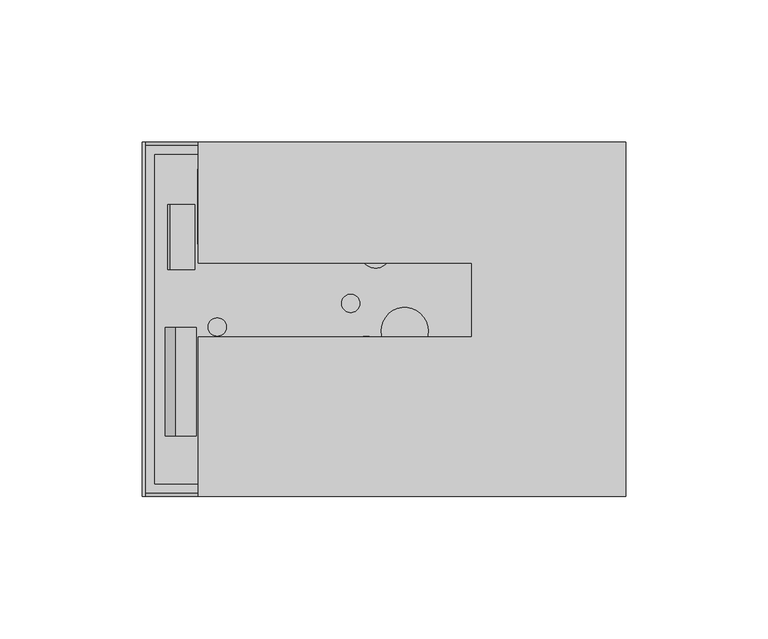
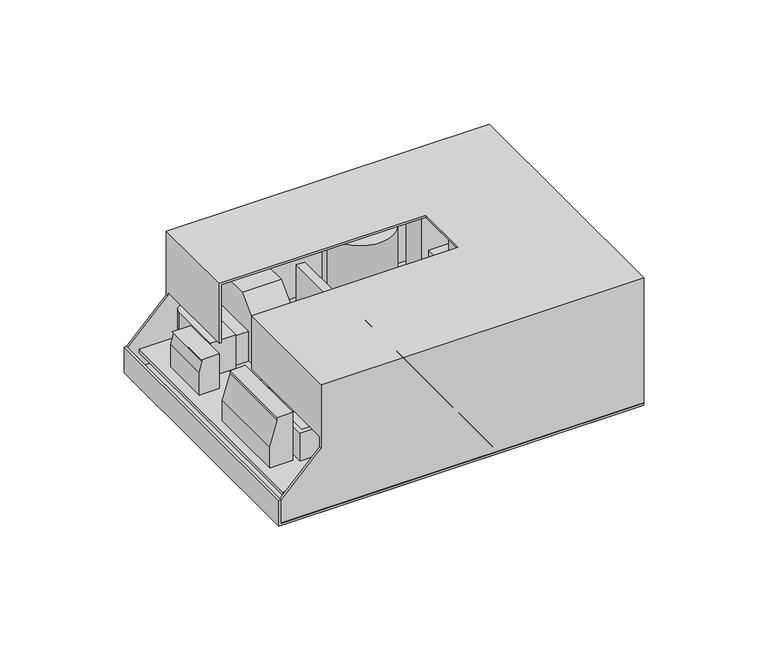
"""IFC4 building model written with IfcOpenShell, lengths in millimetres: proxy geometry, FITIN 48V 3A CG2 : FITIN 48V 3A CG2."""

from ifc_helpers import new_model, si_unit, point, frame, frame_2d, origin, origin_with_axes, place, context, project, spatial, polyline, circle_curve, trimmed, segment, composite_curve, outline, extrude, faceted_brep, source, transform, mapped, element, save


def electrical_equipment_0b040b00(model_context):
    return source(origin(), model_context, "Body", "SolidModel", [
        extrude(outline(composite_curve([segment(polyline([(-8.5, 24.6027871), (-0.0019531, 24.6027871), (-0.0019531, -25.3972129), (-5.6765266, -25.3972129), (-7.4, -22.3509628), (-6.0792807, -21.6037409), (-7.9333399, -13.04255)]), True, "CONTINUOUS"), segment(trimmed(circle_curve(frame_2d((-7.4927941, -13.4587338)), 0.6060441), [point((-7.9333399, -13.04255))], [point((-6.9004808, -13.3304591))], False, "CARTESIAN"), True, "CONTINUOUS"), segment(polyline([(-6.9004808, -13.3304591), (-4.8862606, -22.6311996)]), True, "CONTINUOUS"), segment(trimmed(circle_curve(frame_2d((-4.1931303, -22.4810915)), 0.7091982), [point((-4.8862606, -22.6311996))], [point((-3.5, -22.6311996))], True, "CARTESIAN"), True, "CONTINUOUS"), segment(polyline([(-3.5, -22.6311996), (-3.5, 18.5341056), (-8.5, 22.1027871), (-8.5, 24.6027871)]), True, "CONTINUOUS")], self_intersect=False)), frame((0.0, -46.9665574, 0.0), z_axis=(0.0, 1.0, 0.0), x_axis=(0.0, 0.0, 1.0)), (0.0, 0.0, 1.0), 99.9220388),
        extrude(outline(polyline([(1.0, 83.339387), (1.0, -85.4038129), (12.5999999, -85.4038129), (12.5999999, -86.4038129), (0.0, -86.4038129), (0.0, 83.339387), (1.0, 83.339387)])), frame((0.0, -59.2811186, 0.0), z_axis=(0.0, 1.0, 0.0), x_axis=(0.0, 0.0, 1.0)), (0.0, 0.0, 1.0), 124.46),
        extrude(outline(polyline([(-82.0072129, 60.8500814), (78.0127871, 60.8500814), (78.0127871, -54.9485186), (-82.0072129, -54.9485186), (-82.0072129, 60.8500814)])), frame((0.0, 0.0, 11.0), z_axis=(0.0, 0.0, 1.0), x_axis=(1.0, 0.0, 0.0)), (0.0, 0.0, 1.0), 1.6),
        extrude(outline(polyline([(37.0171871, -26.0687186), (37.0171871, -37.3209186), (57.9975871, -37.3209186), (57.9975871, -26.0687186), (68.4623871, -26.0687186), (68.4623871, -51.6719186), (55.5083871, -51.6719186), (55.5083871, -40.3181186), (39.5063871, -40.3181186), (39.5063871, -51.6719186), (26.5523871, -51.6719186), (26.5523871, -26.0687186), (37.0171871, -26.0687186)])), origin_with_axes(), (0.0, 0.0, 1.0), 51.1),
        extrude(outline(polyline([(25.9681871, -19.8965186), (25.9681871, -49.8939186), (1.9651871, -49.8939186), (1.9651871, -19.8965186), (25.9681871, -19.8965186)]), holes=[polyline([(24.9681871, -20.8965186), (2.9651871, -20.8965186), (2.9651871, -48.8939186), (24.9681871, -48.8939186), (24.9681871, -20.8965186)])]), origin_with_axes(), (0.0, 0.0, 1.0), 23.6),
        extrude(outline(composite_curve([segment(polyline([(-31.2550865, -45.7422743), (-31.2550865, -33.9312743), (-5.804461, -33.9312743)]), True, "CONTINUOUS"), segment(trimmed(circle_curve(frame_2d((-5.804461, -37.5128489)), 3.5815746), [point((-5.804461, -33.9312743))], [point((-2.2228865, -37.5128489))], False, "CARTESIAN"), True, "CONTINUOUS"), segment(polyline([(-2.2228865, -37.5128489), (-2.2228865, -42.3812111)]), True, "CONTINUOUS"), segment(trimmed(circle_curve(frame_2d((-5.5839497, -42.3812111)), 3.3610632), [point((-2.2228865, -42.3812111))], [point((-5.5839497, -45.7422743))], False, "CARTESIAN"), True, "CONTINUOUS"), segment(polyline([(-5.5839497, -45.7422743), (-31.2550865, -45.7422743)]), True, "CONTINUOUS")], self_intersect=False)), frame((0.0, 0.0, 12.6), z_axis=(0.0, 0.0, 1.0), x_axis=(1.0, 0.0, 0.0)), (0.0, 0.0, 1.0), 16.9),
        extrude(outline(composite_curve([segment(polyline([(-31.2550865, -33.719493), (-31.2550865, -21.908493), (-5.804461, -21.908493)]), True, "CONTINUOUS"), segment(trimmed(circle_curve(frame_2d((-5.804461, -25.4900676)), 3.5815746), [point((-5.804461, -21.908493))], [point((-2.2228865, -25.4900676))], False, "CARTESIAN"), True, "CONTINUOUS"), segment(polyline([(-2.2228865, -25.4900676), (-2.2228865, -30.3584298)]), True, "CONTINUOUS"), segment(trimmed(circle_curve(frame_2d((-5.5839497, -30.3584298)), 3.3610632), [point((-2.2228865, -30.3584298))], [point((-5.5839497, -33.719493))], False, "CARTESIAN"), True, "CONTINUOUS"), segment(polyline([(-5.5839497, -33.719493), (-31.2550865, -33.719493)]), True, "CONTINUOUS")], self_intersect=False)), frame((0.0, 0.0, 12.6), z_axis=(0.0, 0.0, 1.0), x_axis=(1.0, 0.0, 0.0)), (0.0, 0.0, 1.0), 16.9),
        extrude(outline(polyline([(-41.3164129, -6.3329186), (-41.3164129, -39.8355186), (-65.3194129, -39.8355186), (-65.3194129, -6.3329186), (-41.3164129, -6.3329186)]), holes=[polyline([(-43.3164129, -8.3329186), (-63.3194129, -8.3329186), (-63.3194129, -37.8355186), (-43.3164129, -37.8355186), (-43.3164129, -8.3329186)])]), frame((0.0, 0.0, 12.6), z_axis=(0.0, 0.0, 1.0), x_axis=(1.0, 0.0, 0.0)), (0.0, 0.0, 1.0), 14.0),
        extrude(outline(composite_curve([segment(trimmed(circle_curve(frame_2d((-60.0898528, 0.2534011)), 3.2), [point((-63.2898528, 0.2534011))], [point((-56.8898528, 0.2534011))], False, "CARTESIAN"), True, "CONTINUOUS"), segment(trimmed(circle_curve(frame_2d((-60.0898528, 0.2534011)), 3.2), [point((-56.8898528, 0.2534011))], [point((-63.2898528, 0.2534011))], False, "CARTESIAN"), True, "CONTINUOUS")], self_intersect=False)), frame((0.0, 0.0, 12.6), z_axis=(0.0, 0.0, 1.0), x_axis=(1.0, 0.0, 0.0)), (0.0, 0.0, 1.0), 11.7),
        extrude(outline(composite_curve([segment(trimmed(circle_curve(frame_2d((-7.7599187, -6.2013768)), 3.2), [point((-10.9599187, -6.2013768))], [point((-4.5599187, -6.2013768))], False, "CARTESIAN"), True, "CONTINUOUS"), segment(trimmed(circle_curve(frame_2d((-7.7599187, -6.2013768)), 3.2), [point((-4.5599187, -6.2013768))], [point((-10.9599187, -6.2013768))], False, "CARTESIAN"), True, "CONTINUOUS")], self_intersect=False)), frame((0.0, 0.0, 12.6), z_axis=(0.0, 0.0, 1.0), x_axis=(1.0, 0.0, 0.0)), (0.0, 0.0, 1.0), 11.7),
        extrude(outline(composite_curve([segment(trimmed(circle_curve(frame_2d((-13.2523341, 8.537348)), 3.2), [point((-16.4523341, 8.537348))], [point((-10.0523341, 8.537348))], False, "CARTESIAN"), True, "CONTINUOUS"), segment(trimmed(circle_curve(frame_2d((-13.2523341, 8.537348)), 3.2), [point((-10.0523341, 8.537348))], [point((-16.4523341, 8.537348))], False, "CARTESIAN"), True, "CONTINUOUS")], self_intersect=False)), frame((0.0, 0.0, 12.6), z_axis=(0.0, 0.0, 1.0), x_axis=(1.0, 0.0, 0.0)), (0.0, 0.0, 1.0), 11.7),
        extrude(outline(composite_curve([segment(trimmed(circle_curve(frame_2d((-33.7656625, -18.3047851)), 3.2), [point((-36.9656625, -18.3047851))], [point((-30.5656625, -18.3047851))], False, "CARTESIAN"), True, "CONTINUOUS"), segment(trimmed(circle_curve(frame_2d((-33.7656625, -18.3047851)), 3.2), [point((-30.5656625, -18.3047851))], [point((-36.9656625, -18.3047851))], False, "CARTESIAN"), True, "CONTINUOUS")], self_intersect=False)), frame((0.0, 0.0, 12.6), z_axis=(0.0, 0.0, 1.0), x_axis=(1.0, 0.0, 0.0)), (0.0, 0.0, 1.0), 11.7),
        extrude(outline(composite_curve([segment(trimmed(circle_curve(frame_2d((5.7144801, -1.2354138)), 8.3), [point((-2.5855199, -1.2354138))], [point((14.0144801, -1.2354138))], False, "CARTESIAN"), True, "CONTINUOUS"), segment(trimmed(circle_curve(frame_2d((5.7144801, -1.2354138)), 8.3), [point((14.0144801, -1.2354138))], [point((-2.5855199, -1.2354138))], False, "CARTESIAN"), True, "CONTINUOUS")], self_intersect=False)), frame((0.0, 0.0, 12.6), z_axis=(0.0, 0.0, 1.0), x_axis=(1.0, 0.0, 0.0)), (0.0, 0.0, 1.0), 32.6),
        extrude(outline(polyline([(41.2137871, 24.6494814), (71.3777871, 24.6494814), (71.3777871, -12.2455186), (41.2137871, -12.2455186), (41.2137871, 24.6494814)])), frame((0.0, 0.0, 38.5), z_axis=(0.0, 0.0, 1.0), x_axis=(1.0, 0.0, 0.0)), (0.0, 0.0, 1.0), 9.0),
        extrude(outline(polyline([(35.2137871, 30.6494814), (77.2686765, 30.6494814), (77.2686765, -18.2455186), (35.2137871, -18.2455186), (35.2137871, 30.6494814)])), frame((0.0, 0.0, 12.6), z_axis=(0.0, 0.0, 1.0), x_axis=(1.0, 0.0, 0.0)), (0.0, 0.0, 1.0), 25.9),
        extrude(outline(polyline([(37.5505871, 52.5442814), (39.4555871, 52.5442814), (39.4555871, 47.1086814), (41.6907871, 47.1086814), (41.6907871, 52.5442814), (43.9513871, 52.5442814), (43.9513871, 43.5780814), (60.2581871, 43.5780814), (60.2581871, 52.5442814), (62.1885871, 52.5442814), (62.1885871, 47.1086814), (64.4237871, 47.1086814), (64.4237871, 52.5442814), (66.6589871, 52.5442814), (66.6589871, 40.5327358), (37.5505871, 40.5327358), (37.5505871, 52.5442814)])), frame((0.0, 0.0, 12.6), z_axis=(0.0, 0.0, 1.0), x_axis=(1.0, 0.0, 0.0)), (0.0, 0.0, 1.0), 38.9),
        extrude(outline(composite_curve([segment(trimmed(circle_curve(frame_2d((9.5021652, 41.3737503)), 15.3), [point((-5.7978348, 41.3737503))], [point((24.8021652, 41.3737503))], False, "CARTESIAN"), True, "CONTINUOUS"), segment(trimmed(circle_curve(frame_2d((9.5021652, 41.3737503)), 15.3), [point((24.8021652, 41.3737503))], [point((-5.7978348, 41.3737503))], False, "CARTESIAN"), True, "CONTINUOUS")], self_intersect=False)), frame((0.0, 0.0, 12.6), z_axis=(0.0, 0.0, 1.0), x_axis=(1.0, 0.0, 0.0)), (0.0, 0.0, 1.0), 41.3),
        extrude(outline(composite_curve([segment(trimmed(circle_curve(frame_2d((-4.4504275, 26.00576)), 5.1), [point((-9.5504275, 26.00576))], [point((0.6495725, 26.00576))], False, "CARTESIAN"), True, "CONTINUOUS"), segment(trimmed(circle_curve(frame_2d((-4.4504275, 26.00576)), 5.1), [point((0.6495725, 26.00576))], [point((-9.5504275, 26.00576))], False, "CARTESIAN"), True, "CONTINUOUS")], self_intersect=False)), frame((0.0, 0.0, 12.6), z_axis=(0.0, 0.0, 1.0), x_axis=(1.0, 0.0, 0.0)), (0.0, 0.0, 1.0), 20.5),
        extrude(outline(polyline([(-12.5128129, 54.5508814), (-8.6012129, 54.5508814), (-8.6012129, 30.7510814), (-12.5128129, 30.7510814), (-12.5128129, 54.5508814)])), frame((0.0, 0.0, 12.6), z_axis=(0.0, 0.0, 1.0), x_axis=(1.0, 0.0, 0.0)), (0.0, 0.0, 1.0), 21.0),
        extrude(outline(polyline([(47.7700814, 43.4), (55.7700814, 35.4), (55.7700814, 12.6), (28.5666814, 12.6), (28.5666814, 35.4), (36.5666814, 43.4), (47.7700814, 43.4)])), frame((-48.0728129, 0.0, 0.0), z_axis=(1.0, 0.0, 0.0), x_axis=(0.0, 1.0, 0.0)), (0.0, 0.0, 1.0), 18.2372),
        extrude(outline(polyline([(-55.1594129, 31.1320814), (-55.1594129, 57.1670814), (-48.1236129, 57.1670814), (-48.1236129, 31.1320814), (-55.1594129, 31.1320814)])), frame((0.0, 0.0, 12.6), z_axis=(0.0, 0.0, 1.0), x_axis=(1.0, 0.0, 0.0)), (0.0, 0.0, 1.0), 15.0),
        extrude(outline(composite_curve([segment(polyline([(-55.1594129, 29.3540814), (-66.9704129, 29.3540814), (-66.9704129, 54.8047069)]), True, "CONTINUOUS"), segment(trimmed(circle_curve(frame_2d((-63.3888383, 54.8047069)), 3.5815746), [point((-66.9704129, 54.8047069))], [point((-63.3888383, 58.3862814))], False, "CARTESIAN"), True, "CONTINUOUS"), segment(polyline([(-63.3888383, 58.3862814), (-58.5204761, 58.3862814)]), True, "CONTINUOUS"), segment(trimmed(circle_curve(frame_2d((-58.5204761, 55.0252183)), 3.3610632), [point((-58.5204761, 58.3862814))], [point((-55.1594129, 55.0252183))], False, "CARTESIAN"), True, "CONTINUOUS"), segment(polyline([(-55.1594129, 55.0252183), (-55.1594129, 29.3540814)]), True, "CONTINUOUS")], self_intersect=False)), frame((0.0, 0.0, 12.6), z_axis=(0.0, 0.0, 1.0), x_axis=(1.0, 0.0, 0.0)), (0.0, 0.0, 1.0), 16.9),
        extrude(outline(polyline([(29.9, -68.0534825), (29.9, -76.6031933), (28.9972845, -75.9811909), (23.9881372, -77.4129031), (12.6, -77.4129031), (12.6, -68.0534825), (29.9, -68.0534825)])), frame((0.0, 20.4640814, 0.0), z_axis=(0.0, 1.0, 0.0), x_axis=(0.0, 0.0, 1.0)), (0.0, 0.0, 1.0), 22.86),
        extrude(outline(polyline([(34.8669698, -74.7406338), (23.0639317, -78.3496129), (12.6, -78.3496129), (12.6, -67.5563994), (36.4, -67.5563994), (36.4, -74.7406338), (34.8669698, -74.7406338)])), frame((0.0, -37.9559186, 0.0), z_axis=(0.0, 1.0, 0.0), x_axis=(0.0, 0.0, 1.0)), (0.0, 0.0, 1.0), 38.1),
        faceted_brep([(-66.7313235, 22.7472814, 62.7366), (29.2686765, 22.7472814, 62.7366), (29.2686765, -3.3527186, 62.7366), (-66.7313235, -3.3527186, 62.7366), (-66.7313235, -59.2811186, 62.7366), (83.339387, -59.2811186, 62.7366), (83.339387, 65.1788814, 62.7366), (-66.7313235, 65.1788814, 62.7366), (29.2686765, -3.3527186, 61.7366), (29.2686765, 22.7472814, 61.7366), (-65.7313235, 22.7472814, 61.7366), (-65.7313235, 64.1788814, 61.7366), (82.339387, 64.1788814, 61.7366), (82.2686765, -58.2811186, 61.7366), (-65.7313235, -58.2811186, 61.7366), (-65.7313235, -3.3527186, 61.7366), (-66.7313235, 22.7472814, 33.2366), (-65.7313235, 22.7472814, 33.2366), (-65.7313235, -3.3527186, 36.4), (-66.7313235, -3.3527186, 36.4), (-66.7313235, -58.2811186, 36.4), (-66.7313235, -58.2811186, 31.5446781), (-66.7313235, -59.2811186, 31.5446781), (-66.7313235, 65.1788814, 31.5446781), (-66.7313235, 64.1788814, 31.5446781), (-66.7313235, 64.1788814, 33.2366), (-66.7313235, -58.2811186, 0.0), (-66.7313235, -59.2811186, 0.0), (-66.7313235, -59.2811186, 1.0), (-66.7313235, -58.2811186, 1.0), (-66.7313235, 65.1788814, 0.0), (-66.7313235, 64.1788814, 0.0), (-66.7313235, 64.1788814, 1.0), (-66.7313235, 65.1788814, 1.0), (83.339387, 65.1788814, 0.0), (83.339387, -59.2811186, 0.0), (82.2686765, -58.2811186, 0.0), (82.2686765, 64.1788814, 0.0), (-85.3331022, 65.1788814, 1.0), (-85.3331022, 65.1788814, 12.5), (-65.7313235, 64.1788814, 33.2366), (-85.3331022, 64.1788814, 12.5), (-85.3331022, 64.1788814, 1.0), (-85.3331022, -58.2811186, 1.0), (-85.3331022, -58.2811186, 12.5), (-65.7313235, -58.2811186, 36.4), (-85.3331022, -59.2811186, 12.5), (-85.3331022, -59.2811186, 1.0)], [[[0, 1, 2, 3, 4, 5, 6, 7]], [[8, 9, 10, 11, 12, 13, 14, 15]], [[1, 0, 16, 17, 10, 9]], [[2, 1, 9, 8]], [[3, 2, 8, 15, 18, 19]], [[4, 3, 19, 20, 21, 22]], [[0, 7, 23, 24, 25, 16]], [[26, 27, 28, 29]], [[30, 31, 32, 33]], [[34, 35, 27, 26, 36, 37, 31, 30]], [[7, 6, 34, 30, 33, 38, 39, 23]], [[31, 37, 12, 11, 40, 25, 24, 41, 42, 32]], [[37, 36, 13, 12]], [[36, 26, 29, 43, 44, 21, 20, 45, 14, 13]], [[5, 4, 22, 46, 47, 28, 27, 35]], [[6, 5, 35, 34]], [[10, 17, 40, 11]], [[18, 15, 14, 45]], [[40, 17, 16, 25]], [[18, 45, 20, 19]], [[42, 41, 39, 38]], [[42, 38, 33, 32]], [[39, 41, 24, 23]], [[47, 46, 44, 43]], [[47, 43, 29, 28]], [[44, 46, 22, 21]]]),
    ])


if __name__ == "__main__":
    model = new_model("IFC4")
    model_context = context("Model", 3, world=origin())
    ifc_project = project(units=[si_unit("LENGTHUNIT", "METRE", prefix="MILLI")], contexts=[model_context])
    site = spatial("IfcSite", under=ifc_project)
    building = spatial("IfcBuilding", under=site)
    placement = place(None, origin())
    electrical_equipment_shape = electrical_equipment_0b040b00(model_context)
    element("IfcBuildingElementProxy", 1, Name="FITIN 48V 3A CG2 : FITIN 48V 3A CG2", ObjectType="FITIN 48V 3A CG2 : FITIN 48V 3A CG2", at=placement, inside=building, context=model_context, shape_type="MappedRepresentation", body=[
        mapped(electrical_equipment_shape, transform((0.0, 0.0, 0.0), x_axis=(1.0, 0.0, 0.0), y_axis=(0.0, 1.0, 0.0), z_axis=(0.0, 0.0, 1.0))),
    ])
    save(model, "model.ifc")
